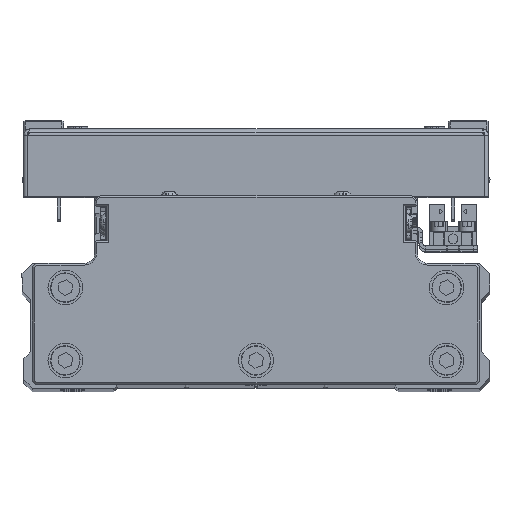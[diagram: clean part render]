
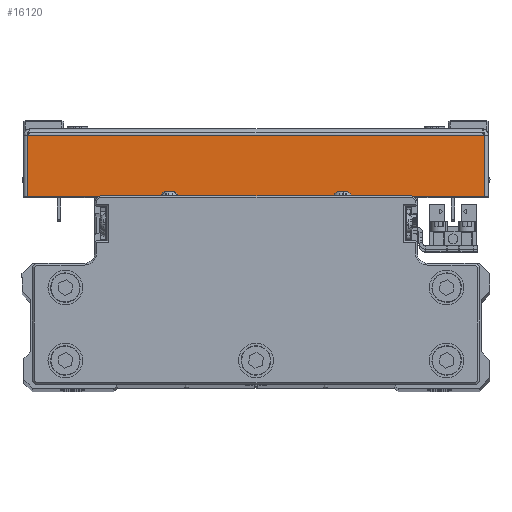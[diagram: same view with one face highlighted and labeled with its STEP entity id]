
A CAD part, top view. The second image highlights one B-rep face of the part: STEP entity #16120.
In plain terms, the highlighted planar face has unit normal (0, 0, 1) as drawn and (1, 0, 0) by its records, which use the part's own axes.
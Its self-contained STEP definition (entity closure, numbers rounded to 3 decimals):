
#477 = ORIENTED_EDGE ( 'NONE', *, *, #19370, .F. ) ;
#948 = CARTESIAN_POINT ( 'NONE',  ( 100., 0., -65.929 ) ) ;
#3172 = VERTEX_POINT ( 'NONE', #27139 ) ;
#3915 = CARTESIAN_POINT ( 'NONE',  ( 100., 1., 67. ) ) ;
#5977 = LINE ( 'NONE', #19601, #15825 ) ;
#6569 = ORIENTED_EDGE ( 'NONE', *, *, #38955, .F. ) ;
#9812 = CARTESIAN_POINT ( 'NONE',  ( 100., 18.5, 0. ) ) ;
#10279 = DIRECTION ( 'NONE',  ( -1., 0., 0. ) ) ;
#11309 = VERTEX_POINT ( 'NONE', #24480 ) ;
#12214 = ORIENTED_EDGE ( 'NONE', *, *, #23146, .T. ) ;
#13337 = VECTOR ( 'NONE', #14574, 1000. ) ;
#13613 = FACE_OUTER_BOUND ( 'NONE', #17150, .T. ) ;
#14203 = VECTOR ( 'NONE', #17534, 1000. ) ;
#14574 = DIRECTION ( 'NONE',  ( 0., 1., 0. ) ) ;
#15825 = VECTOR ( 'NONE', #33245, 1000. ) ;
#16120 = ADVANCED_FACE ( 'NONE', ( #13613 ), #27264, .F. ) ;
#17150 = EDGE_LOOP ( 'NONE', ( #477, #12214, #43424, #6569 ) ) ;
#17534 = DIRECTION ( 'NONE',  ( 0., 0., 1. ) ) ;
#19370 = EDGE_CURVE ( 'NONE', #30407, #3172, #34555, .T. ) ;
#19601 = CARTESIAN_POINT ( 'NONE',  ( 100., 0., 65.929 ) ) ;
#23146 = EDGE_CURVE ( 'NONE', #30407, #42886, #31573, .T. ) ;
#23440 = DIRECTION ( 'NONE',  ( 0., 0., 1. ) ) ;
#23910 = DIRECTION ( 'NONE',  ( 0., -1., 0. ) ) ;
#24480 = CARTESIAN_POINT ( 'NONE',  ( 100., 18.5, 65.929 ) ) ;
#27139 = CARTESIAN_POINT ( 'NONE',  ( 100., 1., 65.929 ) ) ;
#27264 = PLANE ( 'NONE',  #36939 ) ;
#28738 = VECTOR ( 'NONE', #23440, 1000. ) ;
#30407 = VERTEX_POINT ( 'NONE', #40931 ) ;
#31573 = LINE ( 'NONE', #948, #13337 ) ;
#33245 = DIRECTION ( 'NONE',  ( 0., 1., 0. ) ) ;
#34555 = LINE ( 'NONE', #3915, #14203 ) ;
#36939 = AXIS2_PLACEMENT_3D ( 'NONE', #40905, #10279, #23910 ) ;
#38955 = EDGE_CURVE ( 'NONE', #3172, #11309, #5977, .T. ) ;
#40434 = LINE ( 'NONE', #9812, #28738 ) ;
#40905 = CARTESIAN_POINT ( 'NONE',  ( 100., 0., 0. ) ) ;
#40931 = CARTESIAN_POINT ( 'NONE',  ( 100., 1., -65.929 ) ) ;
#41753 = CARTESIAN_POINT ( 'NONE',  ( 100., 18.5, -65.929 ) ) ;
#42886 = VERTEX_POINT ( 'NONE', #41753 ) ;
#43424 = ORIENTED_EDGE ( 'NONE', *, *, #43823, .T. ) ;
#43823 = EDGE_CURVE ( 'NONE', #42886, #11309, #40434, .T. ) ;
